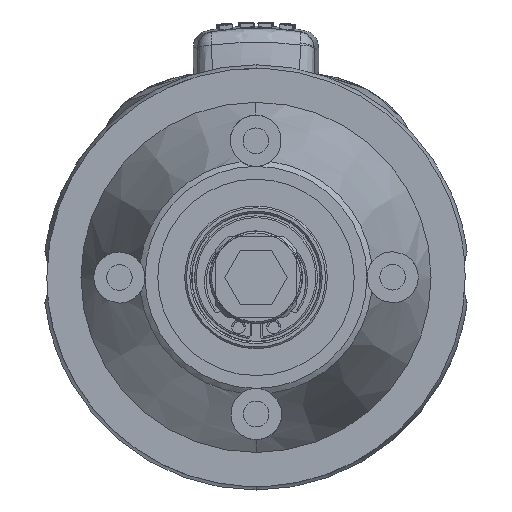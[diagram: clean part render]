
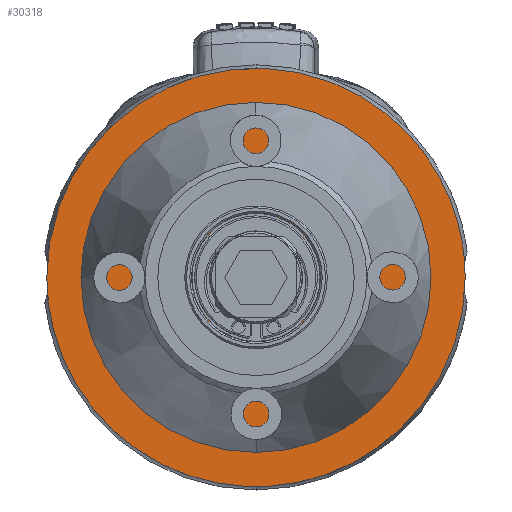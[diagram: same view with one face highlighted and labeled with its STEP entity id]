
A CAD part, front view. The second image highlights one B-rep face of the part: STEP entity #30318.
In plain terms, the highlighted planar face has unit normal (0, -1, 0).
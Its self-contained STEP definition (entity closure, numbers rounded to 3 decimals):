
#508 = CARTESIAN_POINT ( 'NONE',  ( -24.497, 0.5, 0. ) ) ;
#22456 = PLANE ( 'NONE',  #66252 ) ;
#26810 = ORIENTED_EDGE ( 'NONE', *, *, #90169, .F. ) ;
#27927 = CARTESIAN_POINT ( 'NONE',  ( 24.497, 0.5, 0. ) ) ;
#29754 = CARTESIAN_POINT ( 'NONE',  ( -24.497, 0.5, 0. ) ) ;
#30266 = CARTESIAN_POINT ( 'NONE',  ( -24.497, 0.5, -14.35 ) ) ;
#30318 = ADVANCED_FACE ( 'NONE', ( #78785 ), #22456, .F. ) ;
#31805 = ORIENTED_EDGE ( 'NONE', *, *, #47752, .F. ) ;
#32916 = CARTESIAN_POINT ( 'NONE',  ( 24.497, 0.5, 0. ) ) ;
#33043 = DIRECTION ( 'NONE',  ( 1., 0., 0. ) ) ;
#37743 = CARTESIAN_POINT ( 'NONE',  ( 14.35, 0.5, -24.497 ) ) ;
#39259 = VERTEX_POINT ( 'NONE', #27927 ) ;
#42065 = DIRECTION ( 'NONE',  ( 0., 1., 0. ) ) ;
#47752 = EDGE_CURVE ( 'NONE', #81493, #39259, #53613, .T. ) ;
#51085 = CARTESIAN_POINT ( 'NONE',  ( -24.497, 0.5, 0. ) ) ;
#53613 =( BOUNDED_CURVE ( )  B_SPLINE_CURVE ( 3, ( #508, #56862, #80219, #32916 ),
 .UNSPECIFIED., .F., .F. ) 
 B_SPLINE_CURVE_WITH_KNOTS ( ( 4, 4 ),
 ( 0., 1. ),
 .UNSPECIFIED. ) 
 CURVE ( )  GEOMETRIC_REPRESENTATION_ITEM ( )  RATIONAL_B_SPLINE_CURVE ( ( 1., 0.333, 0.333, 1. ) ) 
 REPRESENTATION_ITEM ( '' )  );
#56862 = CARTESIAN_POINT ( 'NONE',  ( -24.496, 0.5, 48.994 ) ) ;
#59585 = CARTESIAN_POINT ( 'NONE',  ( 0., 0.5, 0. ) ) ;
#61135 = CARTESIAN_POINT ( 'NONE',  ( 0., 0.5, -24.497 ) ) ;
#66252 = AXIS2_PLACEMENT_3D ( 'NONE', #59585, #42065, #33043 ) ;
#66616 =( BOUNDED_CURVE ( )  B_SPLINE_CURVE ( 3, ( #70698, #69633, #37743, #61135, #102052, #30266, #29754 ),
 .UNSPECIFIED., .F., .F. ) 
 B_SPLINE_CURVE_WITH_KNOTS ( ( 4, 3, 4 ),
 ( 0., 0.5, 1. ),
 .UNSPECIFIED. ) 
 CURVE ( )  GEOMETRIC_REPRESENTATION_ITEM ( )  RATIONAL_B_SPLINE_CURVE ( ( 1., 0.805, 0.805, 1., 0.805, 0.805, 1. ) ) 
 REPRESENTATION_ITEM ( '' )  );
#69633 = CARTESIAN_POINT ( 'NONE',  ( 24.497, 0.5, -14.35 ) ) ;
#70698 = CARTESIAN_POINT ( 'NONE',  ( 24.497, 0.5, 0. ) ) ;
#74160 = EDGE_LOOP ( 'NONE', ( #31805, #26810 ) ) ;
#78785 = FACE_OUTER_BOUND ( 'NONE', #74160, .T. ) ;
#80219 = CARTESIAN_POINT ( 'NONE',  ( 24.498, 0.5, 48.993 ) ) ;
#81493 = VERTEX_POINT ( 'NONE', #51085 ) ;
#90169 = EDGE_CURVE ( 'NONE', #39259, #81493, #66616, .T. ) ;
#102052 = CARTESIAN_POINT ( 'NONE',  ( -14.35, 0.5, -24.497 ) ) ;
